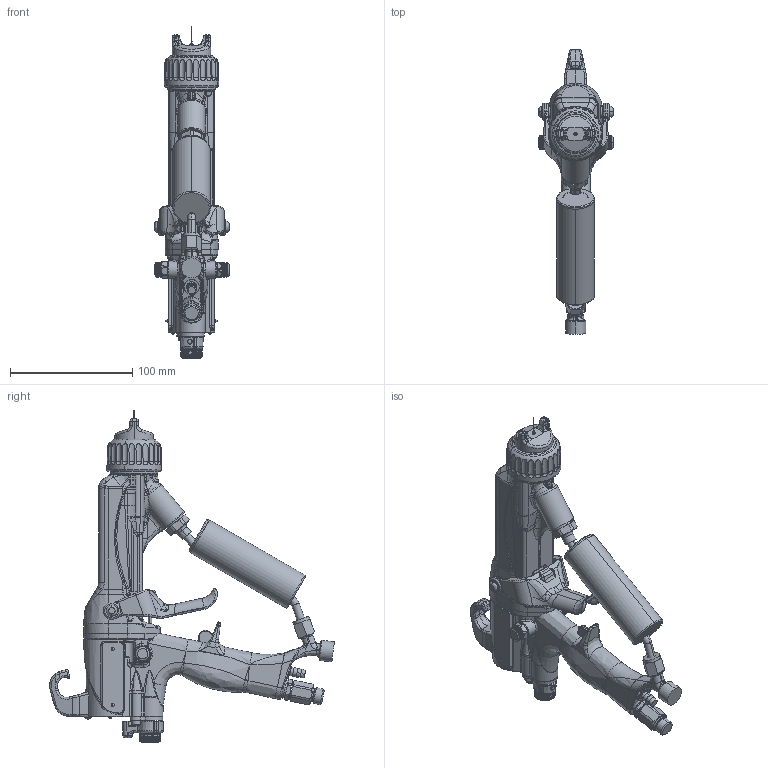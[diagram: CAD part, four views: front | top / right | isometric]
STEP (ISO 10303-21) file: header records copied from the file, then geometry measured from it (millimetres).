
FILE_DESCRIPTION((''),'2;1');
FILE_NAME('L85T16-EN-T_PRT','2020-05-18T18:56:19',('qusrh3'),(''),'CREO PARAMETRIC BY PTC INC, 2019030','CREO PARAMETRIC BY PTC INC, 2019030','');
FILE_SCHEMA(('CONFIG_CONTROL_DESIGN'));
Length unit declared in the file: inch
Products named in the file (1): L85T16-EN-T_PRT
Bounding box: 61.15 x 233.22 x 271.93 mm (x, y, z)
Surface area: 101819.9 mm2 (no closed solid volume)
Topology: 0 solids, 64 shells, 2645 faces, 7312 edges, 4551 vertices
Faces by surface type: bspline 880, cylinder 678, plane 540, torus 249, cone 234, sphere 56, extrusion 8
Entity records: 134229 total; most frequent: CARTESIAN_POINT 75842, ORIENTED_EDGE 13072, DIRECTION 10249, EDGE_CURVE 7303, VERTEX_POINT 4551, AXIS2_PLACEMENT_3D 4184, B_SPLINE_CURVE_WITH_KNOTS 3011, EDGE_LOOP 2645
